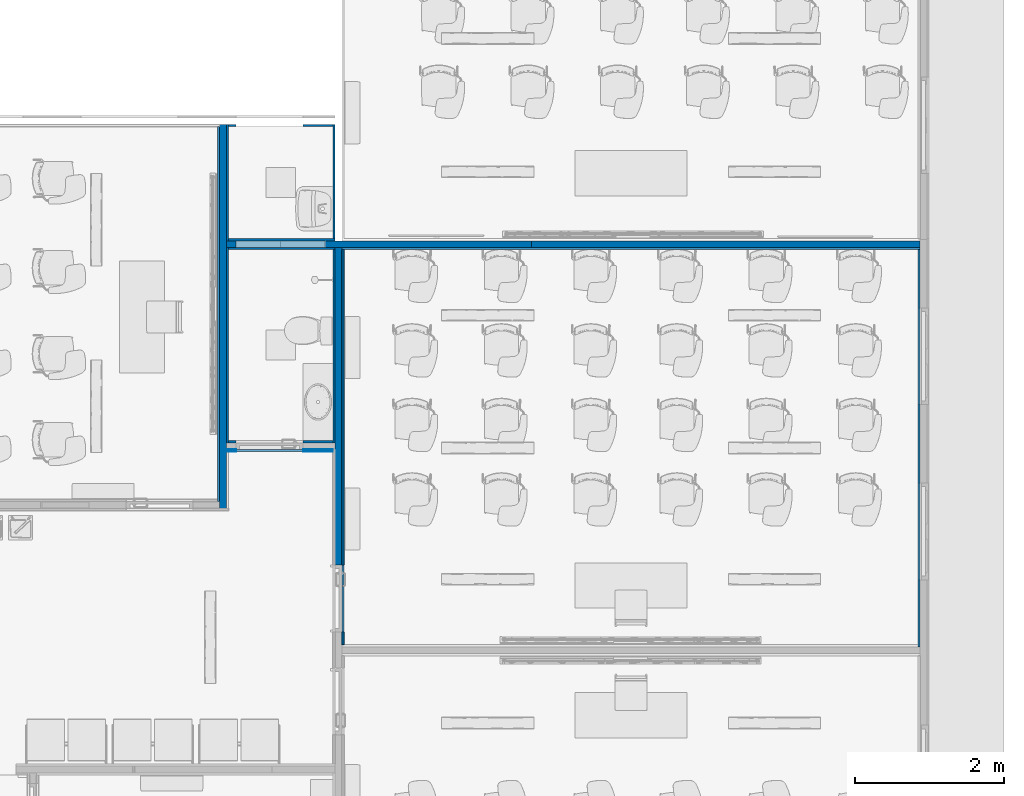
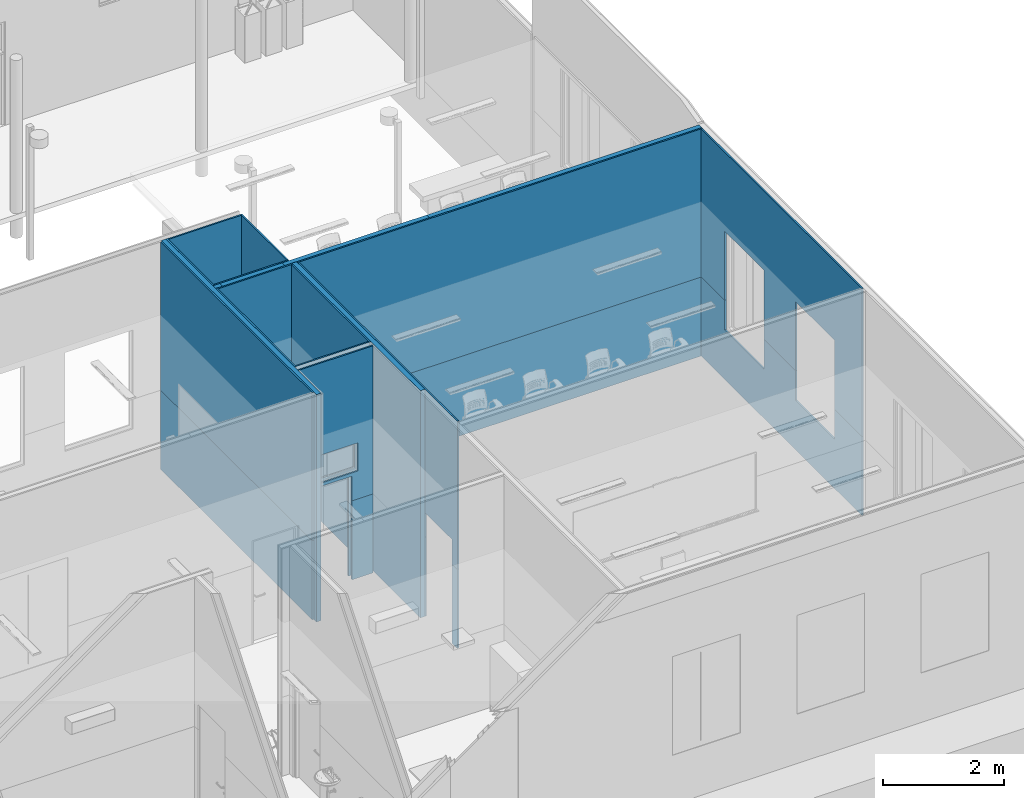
# One storey, part 24 of 155: 24 walls, 29 openings.
"""IFC2X3 building model written with IfcOpenShell, lengths in metres."""

from ifc_helpers import new_model, entity, si_unit, converted_unit, derived_unit, direction, frame, frame_2d, origin, place, context, subcontext, project, spatial, rectangle, extrude, material, layer, layer_set, layer_usage, type_object, element, save


model = new_model("IFC2X3")

# Units and contexts
model_context = context("Model", 3, precision=1e-05, world=origin(), true_north=direction((6.12303176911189e-17, 1.0)))
body_context = subcontext(model_context, "Body", "Model", "MODEL_VIEW")
ifc_project = project(units=[si_unit("LENGTHUNIT", "METRE"), si_unit("AREAUNIT", "SQUARE_METRE"), si_unit("VOLUMEUNIT", "CUBIC_METRE"), converted_unit("PLANEANGLEUNIT", "DEGREE", entity("IfcRatioMeasure", 0.0174532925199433), si_unit("PLANEANGLEUNIT", "RADIAN"), dimensions=[0, 0, 0, 0, 0, 0, 0]), si_unit("MASSUNIT", "GRAM", prefix="KILO"), derived_unit("MASSDENSITYUNIT", [(si_unit("MASSUNIT", "GRAM", prefix="KILO"), 1), (si_unit("LENGTHUNIT", "METRE"), -3)]), si_unit("TIMEUNIT", "SECOND"), si_unit("FREQUENCYUNIT", "HERTZ"), si_unit("THERMODYNAMICTEMPERATUREUNIT", "DEGREE_CELSIUS"), derived_unit("THERMALTRANSMITTANCEUNIT", [(si_unit("MASSUNIT", "GRAM", prefix="KILO"), 1), (si_unit("THERMODYNAMICTEMPERATUREUNIT", "KELVIN"), -1), (si_unit("TIMEUNIT", "SECOND"), -3)]), derived_unit("VOLUMETRICFLOWRATEUNIT", [(si_unit("LENGTHUNIT", "METRE"), 3), (si_unit("TIMEUNIT", "SECOND"), -1)]), si_unit("ELECTRICCURRENTUNIT", "AMPERE"), si_unit("ELECTRICVOLTAGEUNIT", "VOLT"), si_unit("POWERUNIT", "WATT"), si_unit("FORCEUNIT", "NEWTON", prefix="KILO"), si_unit("ILLUMINANCEUNIT", "LUX"), si_unit("LUMINOUSFLUXUNIT", "LUMEN"), si_unit("LUMINOUSINTENSITYUNIT", "CANDELA"), derived_unit("USERDEFINED", [(si_unit("MASSUNIT", "GRAM", prefix="KILO"), -1), (si_unit("LENGTHUNIT", "METRE"), -2), (si_unit("TIMEUNIT", "SECOND"), 3), (si_unit("LUMINOUSFLUXUNIT", "LUMEN"), 1)]), derived_unit("LINEARVELOCITYUNIT", [(si_unit("LENGTHUNIT", "METRE"), 1), (si_unit("TIMEUNIT", "SECOND"), -1)]), si_unit("PRESSUREUNIT", "PASCAL"), derived_unit("USERDEFINED", [(si_unit("LENGTHUNIT", "METRE"), -2), (si_unit("MASSUNIT", "GRAM", prefix="KILO"), 1), (si_unit("TIMEUNIT", "SECOND"), -2)])], contexts=[model_context])

# Site, building, storey
site_placement = place(None, frame((26.9889013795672, -17.5624287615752, 0.0)))
site = spatial("IfcSite", under=ifc_project, at=site_placement, Name="Default", CompositionType="ELEMENT")
building_placement = place(site_placement, origin())
building = spatial("IfcBuilding", under=site, at=building_placement, Name="C. C. L. Monsenhor Antônio Sampaio", CompositionType="ELEMENT")
storey_placement = place(building_placement, frame((0.0, 0.0, 1.19999999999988)))
storey = spatial("IfcBuildingStorey", under=building, at=storey_placement, Name="Nível 1.2", CompositionType="ELEMENT", Elevation=1.19999999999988)

# Wall
ifc_material_1 = material(Name="ALVENARIA")
ifc_layer_1 = layer(ifc_material_1, 0.09)
ifc_layer_set_1 = layer_set([ifc_layer_1], Name="Parede básica:ENucleo parede 15cm")
ifc_layer_usage_1 = layer_usage(ifc_layer_set_1, "AXIS2", "POSITIVE", -0.045)
wall_type_1 = type_object("IfcWallType", Name="Parede básica:ENucleo parede 15cm", PredefinedType="STANDARD", material=ifc_layer_set_1)
wall_1_placement = place(storey_placement, frame((2.25443400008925, -26.7730663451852, 0.0), z_axis=(0.0, 0.0, 1.0), x_axis=(0.0, -1.0, 0.0)))
element("IfcWallStandardCase", 1, at=wall_1_placement, inside=storey, type_object=wall_type_1, material=ifc_layer_usage_1, Name="Parede básica:ENucleo parede 15cm", ObjectType="Parede básica:ENucleo parede 15cm", context=body_context, shape_type="SweptSolid", body=[
    extrude(rectangle(XDim=5.149999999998, YDim=0.0900000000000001, at=frame_2d((2.574999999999, -9.36750677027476e-17), x_axis=(-1.0, 0.0))), origin(), (0.0, 0.0, 1.0), 4.60000000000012),
])

# Wall, openings
ifc_layer_usage_2 = layer_usage(ifc_layer_set_1, "AXIS2", "POSITIVE", -0.045)
wall_2_placement = place(storey_placement, frame((3.62444770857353, -28.378066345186, 0.0)))
wall_2 = element("IfcWallStandardCase", 2, at=wall_2_placement, inside=storey, type_object=wall_type_1, material=ifc_layer_usage_2, Name="Parede básica:ENucleo parede 15cm", ObjectType="Parede básica:ENucleo parede 15cm", context=body_context, shape_type="SweptSolid", body=[
    extrude(rectangle(XDim=2.77, YDim=0.0899999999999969, at=frame_2d((1.385, 0.0), x_axis=(-1.0, 0.0))), origin(), (0.0, 0.0, 1.0), 4.60000000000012),
])
opening_1_placement = place(wall_2_placement, origin())
element("IfcOpeningElement", 3, at=opening_1_placement, cuts=wall_2, Name="Parede básica:ENucleo parede 15cm", ObjectType="Opening", context=body_context, shape_type="SweptSolid", body=[
    extrude(rectangle(XDim=0.400000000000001, YDim=0.6, at=frame_2d((-2.77555756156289e-16, 0.0), x_axis=(0.0, 1.0))), frame((-0.295000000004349, -1.47900000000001, 2.0), z_axis=(0.0, 1.0, 0.0), x_axis=(-1.0, 0.0, 0.0)), (0.0, 0.0, 1.0), 3.048),
])
opening_2_placement = place(wall_2_placement, origin())
element("IfcOpeningElement", 4, at=opening_2_placement, cuts=wall_2, Name="Parede básica:ENucleo parede 15cm", ObjectType="Opening", context=body_context, shape_type="SweptSolid", body=[
    extrude(rectangle(XDim=0.400000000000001, YDim=0.6, at=frame_2d((2.77555756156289e-16, 0.0), x_axis=(0.0, 1.0))), frame((-0.895000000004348, -1.479, 2.0), z_axis=(0.0, 1.0, 0.0), x_axis=(-1.0, 0.0, 0.0)), (0.0, 0.0, 1.0), 3.048),
])

ifc_layer_usage_3 = layer_usage(ifc_layer_set_1, "AXIS2", "POSITIVE", -0.045)
wall_3_placement = place(storey_placement, frame((6.39444770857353, -28.378066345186, 0.0)))
wall_3 = element("IfcWallStandardCase", 5, at=wall_3_placement, inside=storey, type_object=wall_type_1, material=ifc_layer_usage_3, Name="Parede básica:ENucleo parede 15cm", ObjectType="Parede básica:ENucleo parede 15cm", context=body_context, shape_type="SweptSolid", body=[
    extrude(rectangle(XDim=5.215, YDim=0.0899999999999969, at=frame_2d((2.6075, -9.0205620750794e-17), x_axis=(-1.0, 0.0))), origin(), (0.0, 0.0, 1.0), 4.60000000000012),
])
opening_3_placement = place(wall_3_placement, origin())
element("IfcOpeningElement", 6, at=opening_3_placement, cuts=wall_3, Name="Parede básica:ENucleo parede 15cm", ObjectType="Opening", context=body_context, shape_type="SweptSolid", body=[
    extrude(rectangle(XDim=0.400000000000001, YDim=0.6, at=frame_2d((2.77555756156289e-16, 0.0), x_axis=(0.0, 1.0))), frame((-3.66500000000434, -1.479, 2.0), z_axis=(0.0, 1.0, 0.0), x_axis=(-1.0, 0.0, 0.0)), (0.0, 0.0, 1.0), 3.048),
])
opening_4_placement = place(wall_3_placement, origin())
element("IfcOpeningElement", 7, at=opening_4_placement, cuts=wall_3, Name="Parede básica:ENucleo parede 15cm", ObjectType="Opening", context=body_context, shape_type="SweptSolid", body=[
    extrude(rectangle(XDim=0.400000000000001, YDim=0.6, at=frame_2d((-2.77555756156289e-16, 0.0), x_axis=(0.0, 1.0))), frame((-3.06500000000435, -1.479, 2.0), z_axis=(0.0, 1.0, 0.0), x_axis=(-1.0, 0.0, 0.0)), (0.0, 0.0, 1.0), 3.048),
])

ifc_layer_usage_4 = layer_usage(ifc_layer_set_1, "AXIS2", "POSITIVE", -0.045)
wall_4_placement = place(storey_placement, frame((2.29943400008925, -28.378066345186, 0.0)))
wall_4 = element("IfcWallStandardCase", 8, at=wall_4_placement, inside=storey, type_object=wall_type_1, material=ifc_layer_usage_4, Name="Parede básica:ENucleo parede 15cm", ObjectType="Parede básica:ENucleo parede 15cm", context=body_context, shape_type="SweptSolid", body=[
    extrude(rectangle(XDim=0.130000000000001, YDim=0.0899999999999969, at=frame_2d((0.0650000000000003, 2.1163626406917e-16), x_axis=(-1.0, 0.0))), origin(), (0.0, 0.0, 1.0), 4.60000000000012),
])
opening_5_placement = place(wall_4_placement, origin())
element("IfcOpeningElement", 9, at=opening_5_placement, cuts=wall_4, Name="Parede básica:ENucleo parede 15cm", ObjectType="Opening", context=body_context, shape_type="SweptSolid", body=[
    extrude(rectangle(XDim=0.400000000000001, YDim=0.6, at=frame_2d((2.77555756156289e-16, 0.0), x_axis=(0.0, 1.0))), frame((0.430013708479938, -1.479, 2.0), z_axis=(0.0, 1.0, 0.0), x_axis=(-1.0, 0.0, 0.0)), (0.0, 0.0, 1.0), 3.048),
])
opening_6_placement = place(wall_4_placement, origin())
element("IfcOpeningElement", 10, at=opening_6_placement, cuts=wall_4, Name="Parede básica:ENucleo parede 15cm", ObjectType="Opening", context=body_context, shape_type="SweptSolid", body=[
    extrude(rectangle(XDim=0.400000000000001, YDim=0.6, at=frame_2d((-2.77555756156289e-16, 0.0), x_axis=(0.0, 1.0))), frame((1.03001370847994, -1.479, 2.0), z_axis=(0.0, 1.0, 0.0), x_axis=(-1.0, 0.0, 0.0)), (0.0, 0.0, 1.0), 3.048),
])

ifc_layer_usage_5 = layer_usage(ifc_layer_set_1, "AXIS2", "POSITIVE", -0.045)
wall_5_placement = place(storey_placement, frame((2.42943400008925, -28.378066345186, 0.0)))
wall_5 = element("IfcWallStandardCase", 11, at=wall_5_placement, inside=storey, type_object=wall_type_1, material=ifc_layer_usage_5, Name="Parede básica:ENucleo parede 15cm", ObjectType="Parede básica:ENucleo parede 15cm", context=body_context, shape_type="SweptSolid", body=[
    extrude(rectangle(XDim=1.19501370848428, YDim=0.0899999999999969, at=frame_2d((0.597506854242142, -2.08166817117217e-16), x_axis=(-1.0, 0.0))), origin(), (0.0, 0.0, 1.0), 4.60000000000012),
])
opening_7_placement = place(wall_5_placement, frame((-2.42943400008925, 28.378066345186, 0.0)))
element("IfcOpeningElement", 12, at=opening_7_placement, cuts=wall_5, Name="Parede básica:ENucleo parede 15cm", ObjectType="Opening", context=body_context, shape_type="SweptSolid", body=[
    extrude(rectangle(XDim=0.400000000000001, YDim=0.6, at=frame_2d((2.77555756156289e-16, 0.0), x_axis=(0.0, 1.0))), frame((2.72944770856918, -29.857066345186, 2.0), z_axis=(0.0, 1.0, 0.0), x_axis=(-1.0, 0.0, 0.0)), (0.0, 0.0, 1.0), 3.048),
])
opening_8_placement = place(wall_5_placement, frame((-2.42943400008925, 28.378066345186, 0.0)))
element("IfcOpeningElement", 13, at=opening_8_placement, cuts=wall_5, Name="Parede básica:ENucleo parede 15cm", ObjectType="Opening", context=body_context, shape_type="SweptSolid", body=[
    extrude(rectangle(XDim=0.400000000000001, YDim=0.6, at=frame_2d((-2.77555756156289e-16, 0.0), x_axis=(0.0, 1.0))), frame((3.32944770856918, -29.857066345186, 2.0), z_axis=(0.0, 1.0, 0.0), x_axis=(-1.0, 0.0, 0.0)), (0.0, 0.0, 1.0), 3.048),
])

# Wall, opening
ifc_layer_usage_6 = layer_usage(ifc_layer_set_1, "AXIS2", "POSITIVE", -0.045)
wall_6_placement = place(storey_placement, frame((3.80444770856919, -28.423066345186, 0.0), z_axis=(0.0, 0.0, 1.0), x_axis=(0.0, -1.0, 0.0)))
wall_6 = element("IfcWallStandardCase", 14, at=wall_6_placement, inside=storey, type_object=wall_type_1, material=ifc_layer_usage_6, Name="Parede básica:ENucleo parede 15cm", ObjectType="Parede básica:ENucleo parede 15cm", context=body_context, shape_type="SweptSolid", body=[
    extrude(rectangle(XDim=4.26000000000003, YDim=0.0900000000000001, at=frame_2d((2.13000000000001, -3.12250225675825e-17), x_axis=(-1.0, 0.0))), origin(), (0.0, 0.0, 1.0), 4.60000000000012),
])
opening_9_placement = place(wall_6_placement, origin())
element("IfcOpeningElement", 15, at=opening_9_placement, cuts=wall_6, Name="Parede básica:ENucleo parede 15cm", ObjectType="Opening", context=body_context, shape_type="SweptSolid", body=[
    extrude(rectangle(XDim=2.09999999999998, YDim=0.899999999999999, at=frame_2d((2.16493489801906e-15, 0.0), x_axis=(0.0, 1.0))), frame((4.71000000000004, -1.479, 1.04999999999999), z_axis=(0.0, 1.0, 0.0), x_axis=(-1.0, 0.0, 0.0)), (0.0, 0.0, 1.0), 3.048),
])

ifc_material_2 = material(Name=".CERÂMICA 10x10 BRANCA")
ifc_layer_2 = layer(ifc_material_2, 0.0035)
ifc_material_3 = material(Name="Argamassa Colante")
ifc_layer_3 = layer(ifc_material_3, 0.02)
ifc_material_4 = material(Name="4")
ifc_layer_4 = layer(ifc_material_4, 0.0015)
ifc_material_5 = material(Name="3")
ifc_layer_5 = layer(ifc_material_5, 0.005)
ifc_layer_set_2 = layer_set([ifc_layer_2, ifc_layer_3, ifc_layer_4, ifc_layer_5], Name="Parede básica:ECeramica branca 10x10cm")
ifc_layer_usage_7 = layer_usage(ifc_layer_set_2, "AXIS2", "NEGATIVE", 0.015)
wall_type_2 = type_object("IfcWallType", Name="Parede básica:ECeramica branca 10x10cm", PredefinedType="STANDARD", material=ifc_layer_set_2)
wall_7_placement = place(storey_placement, frame((3.72944770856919, -31.1480663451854, 0.0), z_axis=(0.0, 0.0, 1.0), x_axis=(-1.0, 0.0, 0.0)))
wall_7 = element("IfcWallStandardCase", 16, at=wall_7_placement, inside=storey, type_object=wall_type_2, material=ifc_layer_usage_7, Name="Parede básica:ECeramica branca 10x10cm", ObjectType="Parede básica:ECeramica branca 10x10cm", context=body_context, shape_type="SweptSolid", body=[
    extrude(rectangle(XDim=1.43001370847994, YDim=0.0300000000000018, at=frame_2d((0.715006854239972, 0.0), x_axis=(-1.0, 0.0))), origin(), (0.0, 0.0, 1.0), 1.6),
])
opening_10_placement = place(wall_7_placement, origin())
element("IfcOpeningElement", 17, at=opening_10_placement, cuts=wall_7, Name="Parede básica:ECeramica branca 10x10cm", ObjectType="Opening", context=body_context, shape_type="SweptSolid", body=[
    extrude(rectangle(XDim=2.09999999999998, YDim=0.900000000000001, at=frame_2d((2.77555756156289e-16, 0.0), x_axis=(0.0, 1.0))), frame((0.850013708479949, -1.62899999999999, 1.04999999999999), z_axis=(0.0, 1.0, 0.0), x_axis=(-1.0, 0.0, 0.0)), (0.0, 0.0, 1.0), 3.048),
])

# Walls
ifc_layer_usage_8 = layer_usage(ifc_layer_set_2, "AXIS2", "POSITIVE", -0.015)
wall_8_placement = place(storey_placement, frame((2.19443400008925, -26.8030663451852, 0.0), z_axis=(0.0, 0.0, 1.0), x_axis=(0.0, -1.0, 0.0)))
element("IfcWallStandardCase", 18, at=wall_8_placement, inside=storey, type_object=wall_type_2, material=ifc_layer_usage_8, Name="Parede básica:ECeramica branca 10x10cm", ObjectType="Parede básica:ECeramica branca 10x10cm", context=body_context, shape_type="SweptSolid", body=[
    extrude(rectangle(XDim=5.029999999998, YDim=0.0300000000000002, at=frame_2d((2.514999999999, 0.0), x_axis=(-1.0, 0.0))), origin(), (0.0, 0.0, 1.0), 1.6),
])
ifc_layer_usage_9 = layer_usage(ifc_layer_set_2, "AXIS2", "POSITIVE", -0.015)
wall_9_placement = place(storey_placement, frame((3.84944770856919, -28.438066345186, 0.0)))
element("IfcWallStandardCase", 19, at=wall_9_placement, inside=storey, type_object=wall_type_2, material=ifc_layer_usage_9, Name="Parede básica:ECeramica branca 10x10cm", ObjectType="Parede básica:ECeramica branca 10x10cm", context=body_context, shape_type="SweptSolid", body=[
    extrude(rectangle(XDim=7.76000000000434, YDim=0.0300000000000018, at=frame_2d((3.88000000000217, 0.0), x_axis=(-1.0, 0.0))), origin(), (0.0, 0.0, 1.0), 1.6),
])

# Wall, openings
ifc_layer_usage_10 = layer_usage(ifc_layer_set_2, "AXIS2", "POSITIVE", -0.015)
wall_10_placement = place(storey_placement, frame((11.5944477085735, -28.453066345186, 0.0), z_axis=(0.0, 0.0, 1.0), x_axis=(0.0, -1.0, 0.0)))
wall_10 = element("IfcWallStandardCase", 20, at=wall_10_placement, inside=storey, type_object=wall_type_2, material=ifc_layer_usage_10, Name="Parede básica:ECeramica branca 10x10cm", ObjectType="Parede básica:ECeramica branca 10x10cm", context=body_context, shape_type="SweptSolid", body=[
    extrude(rectangle(XDim=5.33000000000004, YDim=0.0300000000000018, at=frame_2d((2.66500000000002, 0.0), x_axis=(-1.0, 0.0))), origin(), (0.0, 0.0, 1.0), 1.6),
])
opening_11_placement = place(wall_10_placement, origin())
element("IfcOpeningElement", 21, at=opening_11_placement, cuts=wall_10, Name="Parede básica:ECeramica branca 10x10cm", ObjectType="Opening", context=body_context, shape_type="SweptSolid", body=[
    extrude(rectangle(XDim=2.0, YDim=1.30000000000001, at=frame_2d((1.66533453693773e-16, 0.0), x_axis=(1.0, 0.0))), frame((3.78000000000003, -1.509, 2.0), z_axis=(0.0, 1.0, 0.0), x_axis=(0.0, 0.0, 1.0)), (0.0, 0.0, 1.0), 3.048),
])
opening_12_placement = place(wall_10_placement, origin())
element("IfcOpeningElement", 22, at=opening_12_placement, cuts=wall_10, Name="Parede básica:ECeramica branca 10x10cm", ObjectType="Opening", context=body_context, shape_type="SweptSolid", body=[
    extrude(rectangle(XDim=2.0, YDim=1.30000000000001, at=frame_2d((1.66533453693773e-16, 0.0), x_axis=(1.0, 0.0))), frame((1.43000000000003, -1.509, 2.0), z_axis=(0.0, 1.0, 0.0), x_axis=(0.0, 0.0, 1.0)), (0.0, 0.0, 1.0), 3.048),
])
opening_13_placement = place(wall_10_placement, origin())
element("IfcOpeningElement", 23, at=opening_13_placement, cuts=wall_10, Name="Parede básica:ECeramica branca 10x10cm", ObjectType="Opening", context=body_context, shape_type="SweptSolid", body=[
    extrude(rectangle(XDim=2.0, YDim=1.30000000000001, at=frame_2d((1.66533453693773e-16, 4.32986979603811e-15), x_axis=(1.0, 0.0))), frame((9.33000000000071, -1.509, 2.0), z_axis=(0.0, 1.0, 0.0), x_axis=(0.0, 0.0, 1.0)), (0.0, 0.0, 1.0), 3.048),
])
opening_14_placement = place(wall_10_placement, origin())
element("IfcOpeningElement", 24, at=opening_14_placement, cuts=wall_10, Name="Parede básica:ECeramica branca 10x10cm", ObjectType="Opening", context=body_context, shape_type="SweptSolid", body=[
    extrude(rectangle(XDim=2.0, YDim=1.30000000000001, at=frame_2d((1.66533453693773e-16, 4.32986979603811e-15), x_axis=(1.0, 0.0))), frame((7.03000000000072, -1.509, 2.0), z_axis=(0.0, 1.0, 0.0), x_axis=(0.0, 0.0, 1.0)), (0.0, 0.0, 1.0), 3.048),
])

ifc_layer_usage_11 = layer_usage(ifc_layer_set_2, "AXIS2", "POSITIVE", -0.015)
wall_11_placement = place(storey_placement, frame((3.86444770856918, -33.753066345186, 0.0), z_axis=(0.0, 0.0, 1.0), x_axis=(0.0, 1.0, 0.0)))
wall_11 = element("IfcWallStandardCase", 25, at=wall_11_placement, inside=storey, type_object=wall_type_2, material=ifc_layer_usage_11, Name="Parede básica:ECeramica branca 10x10cm", ObjectType="Parede básica:ECeramica branca 10x10cm", context=body_context, shape_type="SweptSolid", body=[
    extrude(rectangle(XDim=5.30000000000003, YDim=0.0299999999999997, at=frame_2d((2.65000000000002, 0.0), x_axis=(-1.0, 0.0))), origin(), (0.0, 0.0, 1.0), 1.6),
])
opening_15_placement = place(wall_11_placement, origin())
element("IfcOpeningElement", 26, at=opening_15_placement, cuts=wall_11, Name="Parede básica:ECeramica branca 10x10cm", ObjectType="Opening", context=body_context, shape_type="SweptSolid", body=[
    extrude(rectangle(XDim=2.09999999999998, YDim=0.899999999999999, at=frame_2d((-3.33066907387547e-16, -2.16493489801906e-15), x_axis=(1.0, 0.0))), frame((0.620000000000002, -1.509, 1.04999999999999), z_axis=(0.0, 1.0, 0.0), x_axis=(0.0, 0.0, 1.0)), (0.0, 0.0, 1.0), 3.048),
])
opening_16_placement = place(wall_11_placement, origin())
element("IfcOpeningElement", 27, at=opening_16_placement, cuts=wall_11, Name="Parede básica:ECeramica branca 10x10cm", ObjectType="Opening", context=body_context, shape_type="SweptSolid", body=[
    extrude(rectangle(XDim=2.09999999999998, YDim=0.899999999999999, at=frame_2d((2.16493489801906e-15, 0.0), x_axis=(0.0, 1.0))), frame((-0.759999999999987, -1.509, 1.04999999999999), z_axis=(0.0, 1.0, 0.0), x_axis=(-1.0, 0.0, 0.0)), (0.0, 0.0, 1.0), 3.048),
])

# Walls
ifc_layer_usage_12 = layer_usage(ifc_layer_set_2, "AXIS2", "NEGATIVE", 0.015)
wall_12_placement = place(storey_placement, frame((2.31443400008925, -28.423066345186, 0.0), z_axis=(0.0, 0.0, 1.0), x_axis=(0.0, -1.0, 0.0)))
element("IfcWallStandardCase", 28, at=wall_12_placement, inside=storey, type_object=wall_type_2, material=ifc_layer_usage_12, Name="Parede básica:ECeramica branca 10x10cm", ObjectType="Parede básica:ECeramica branca 10x10cm", context=body_context, shape_type="SweptSolid", body=[
    extrude(rectangle(XDim=2.61999999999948, YDim=0.0300000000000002, at=frame_2d((1.30999999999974, 0.0), x_axis=(-1.0, 0.0))), origin(), (0.0, 0.0, 1.0), 4.60000000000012),
])
ifc_layer_usage_13 = layer_usage(ifc_layer_set_2, "AXIS2", "POSITIVE", -0.015)
wall_13_placement = place(storey_placement, frame((2.32943400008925, -28.4380663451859, 0.0)))
element("IfcWallStandardCase", 29, at=wall_13_placement, inside=storey, type_object=wall_type_2, material=ifc_layer_usage_13, Name="Parede básica:ECeramica branca 10x10cm", ObjectType="Parede básica:ECeramica branca 10x10cm", context=body_context, shape_type="SweptSolid", body=[
    extrude(rectangle(XDim=1.43001370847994, YDim=0.0300000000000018, at=frame_2d((0.715006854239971, 0.0), x_axis=(-1.0, 0.0))), origin(), (0.0, 0.0, 1.0), 4.60000000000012),
])
ifc_layer_usage_14 = layer_usage(ifc_layer_set_2, "AXIS2", "POSITIVE", -0.015)
wall_14_placement = place(storey_placement, frame((3.74444770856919, -28.453066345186, 0.0), z_axis=(0.0, 0.0, 1.0), x_axis=(0.0, -1.0, 0.0)))
element("IfcWallStandardCase", 30, at=wall_14_placement, inside=storey, type_object=wall_type_2, material=ifc_layer_usage_14, Name="Parede básica:ECeramica branca 10x10cm", ObjectType="Parede básica:ECeramica branca 10x10cm", context=body_context, shape_type="SweptSolid", body=[
    extrude(rectangle(XDim=2.58999999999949, YDim=0.0299999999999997, at=frame_2d((1.29499999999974, 0.0), x_axis=(-1.0, 0.0))), origin(), (0.0, 0.0, 1.0), 4.60000000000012),
])

# Wall, openings
ifc_layer_usage_15 = layer_usage(ifc_layer_set_2, "AXIS2", "POSITIVE", -0.015)
wall_15_placement = place(storey_placement, frame((3.72944770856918, -31.0280663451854, 0.0), z_axis=(0.0, 0.0, 1.0), x_axis=(-1.0, 0.0, 0.0)))
wall_15 = element("IfcWallStandardCase", 31, at=wall_15_placement, inside=storey, type_object=wall_type_2, material=ifc_layer_usage_15, Name="Parede básica:ECeramica branca 10x10cm", ObjectType="Parede básica:ECeramica branca 10x10cm", context=body_context, shape_type="SweptSolid", body=[
    extrude(rectangle(XDim=1.40001370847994, YDim=0.0300000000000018, at=frame_2d((0.700006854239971, 0.0), x_axis=(-1.0, 0.0))), origin(), (0.0, 0.0, 1.0), 4.60000000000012),
])
opening_17_placement = place(wall_15_placement, origin())
element("IfcOpeningElement", 32, at=opening_17_placement, cuts=wall_15, Name="Parede básica:ECeramica branca 10x10cm", ObjectType="Opening", context=body_context, shape_type="SweptSolid", body=[
    extrude(rectangle(XDim=2.09999999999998, YDim=0.900000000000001, at=frame_2d((2.77555756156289e-16, 0.0), x_axis=(0.0, 1.0))), frame((0.850013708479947, -1.509, 1.04999999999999), z_axis=(0.0, 1.0, 0.0), x_axis=(-1.0, 0.0, 0.0)), (0.0, 0.0, 1.0), 3.048),
])
opening_18_placement = place(wall_15_placement, origin())
element("IfcOpeningElement", 33, at=opening_18_placement, cuts=wall_15, Name="Parede básica:ECeramica branca 10x10cm", ObjectType="Opening", context=body_context, shape_type="SweptSolid", body=[
    extrude(rectangle(XDim=0.570000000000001, YDim=1.07, at=frame_2d((0.0, 5.27355936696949e-16), x_axis=(0.0, 1.0))), frame((0.820006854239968, -1.41900000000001, 2.45), z_axis=(0.0, 1.0, 0.0), x_axis=(-1.0, 0.0, 0.0)), (0.0, 0.0, 1.0), 3.048),
])

# Walls
ifc_layer_usage_16 = layer_usage(ifc_layer_set_2, "AXIS2", "NEGATIVE", 0.015)
wall_16_placement = place(storey_placement, frame((2.31444770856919, -26.7730663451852, 0.0), z_axis=(0.0, 0.0, 1.0), x_axis=(0.0, -1.0, 0.0)))
element("IfcWallStandardCase", 34, at=wall_16_placement, inside=storey, type_object=wall_type_2, material=ifc_layer_usage_16, Name="Parede básica:ECeramica branca 10x10cm", ObjectType="Parede básica:ECeramica branca 10x10cm", context=body_context, shape_type="SweptSolid", body=[
    extrude(rectangle(XDim=1.56000000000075, YDim=0.0300000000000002, at=frame_2d((0.780000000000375, 6.15826833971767e-17), x_axis=(-1.0, 0.0))), origin(), (0.0, 0.0, 1.0), 4.60000000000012),
])
ifc_layer_usage_17 = layer_usage(ifc_layer_set_2, "AXIS2", "NEGATIVE", 0.015)
wall_17_placement = place(storey_placement, frame((2.32944770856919, -28.318066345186, 0.0)))
element("IfcWallStandardCase", 35, at=wall_17_placement, inside=storey, type_object=wall_type_2, material=ifc_layer_usage_17, Name="Parede básica:ECeramica branca 10x10cm", ObjectType="Parede básica:ECeramica branca 10x10cm", context=body_context, shape_type="SweptSolid", body=[
    extrude(rectangle(XDim=1.42992946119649, YDim=0.0300000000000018, at=frame_2d((0.714964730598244, 1.70002900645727e-16), x_axis=(-1.0, 0.0))), origin(), (0.0, 0.0, 1.0), 4.60000000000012),
])
ifc_layer_usage_18 = layer_usage(ifc_layer_set_2, "AXIS2", "NEGATIVE", 0.015)
wall_18_placement = place(storey_placement, frame((3.74437716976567, -28.303066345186, -0.400000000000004), z_axis=(0.0, 0.0, 1.0), x_axis=(0.0, 1.0, 0.0)))
element("IfcWallStandardCase", 36, at=wall_18_placement, inside=storey, type_object=wall_type_2, material=ifc_layer_usage_18, Name="Parede básica:ECeramica branca 10x10cm", ObjectType="Parede básica:ECeramica branca 10x10cm", context=body_context, shape_type="SweptSolid", body=[
    extrude(rectangle(XDim=1.53000000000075, YDim=0.0299999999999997, at=frame_2d((0.765000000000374, -1.0321604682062e-16), x_axis=(-1.0, 0.0))), origin(), (0.0, 0.0, 1.0), 5.00000000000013),
])

# Wall, openings
ifc_layer_usage_19 = layer_usage(ifc_layer_set_2, "AXIS2", "POSITIVE", -0.015)
wall_19_placement = place(storey_placement, frame((2.32944770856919, -26.7880663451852, 0.0)))
wall_19 = element("IfcWallStandardCase", 37, at=wall_19_placement, inside=storey, type_object=wall_type_2, material=ifc_layer_usage_19, Name="Parede básica:ECeramica branca 10x10cm", ObjectType="Parede básica:ECeramica branca 10x10cm", context=body_context, shape_type="SweptSolid", body=[
    extrude(rectangle(XDim=1.39992946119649, YDim=0.0300000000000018, at=frame_2d((0.699964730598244, 0.0), x_axis=(-1.0, 0.0))), origin(), (0.0, 0.0, 1.0), 4.60000000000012),
])
opening_19_placement = place(wall_19_placement, origin())
element("IfcOpeningElement", 38, at=opening_19_placement, cuts=wall_19, Name="Parede básica:ECeramica branca 10x10cm", ObjectType="Opening", context=body_context, shape_type="SweptSolid", body=[
    extrude(rectangle(XDim=0.400000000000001, YDim=0.6, at=frame_2d((-2.77555756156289e-16, 2.77555756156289e-16), x_axis=(0.0, 1.0))), frame((1.04992946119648, -1.41900000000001, 2.4), z_axis=(0.0, 1.0, 0.0), x_axis=(-1.0, 0.0, 0.0)), (0.0, 0.0, 1.0), 3.048),
])
opening_20_placement = place(wall_19_placement, origin())
element("IfcOpeningElement", 39, at=opening_20_placement, cuts=wall_19, Name="Parede básica:ECeramica branca 10x10cm", ObjectType="Opening", context=body_context, shape_type="SweptSolid", body=[
    extrude(rectangle(XDim=0.400000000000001, YDim=0.6, at=frame_2d((-2.77555756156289e-16, 1.38777878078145e-16), x_axis=(1.0, 0.0))), frame((0.359957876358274, -1.509, 2.4), z_axis=(0.0, 1.0, 0.0), x_axis=(0.0, 0.0, 1.0)), (0.0, 0.0, 1.0), 3.048),
])
opening_21_placement = place(wall_19_placement, origin())
element("IfcOpeningElement", 40, at=opening_21_placement, cuts=wall_19, Name="Parede básica:ECeramica branca 10x10cm", ObjectType="Opening", context=body_context, shape_type="SweptSolid", body=[
    extrude(rectangle(XDim=2.09999999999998, YDim=0.9, at=frame_2d((-1.11022302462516e-16, 0.0), x_axis=(1.0, 0.0))), frame((0.550000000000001, -1.509, 0.799999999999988), z_axis=(0.0, 1.0, 0.0), x_axis=(0.0, 0.0, 1.0)), (0.0, 0.0, 1.0), 3.048),
])

ifc_material_6 = material(Name="Acabamento Branco")
ifc_layer_6 = layer(ifc_material_6, 0.0035)
ifc_material_7 = material(Name="Massa corrida")
ifc_layer_7 = layer(ifc_material_7, 0.02)
ifc_layer_8 = layer(ifc_material_4, 0.0015)
ifc_layer_9 = layer(ifc_material_5, 0.005)
ifc_layer_set_3 = layer_set([ifc_layer_6, ifc_layer_7, ifc_layer_8, ifc_layer_9], Name="Parede básica:EPintura Branca")
ifc_layer_usage_20 = layer_usage(ifc_layer_set_3, "AXIS2", "NEGATIVE", 0.015)
wall_type_3 = type_object("IfcWallType", Name="Parede básica:EPintura Branca", PredefinedType="STANDARD", material=ifc_layer_set_3)
wall_20_placement = place(storey_placement, frame((3.72944770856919, -31.1480663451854, 1.6), z_axis=(0.0, 0.0, 1.0), x_axis=(-1.0, 0.0, 0.0)))
wall_20 = element("IfcWallStandardCase", 41, at=wall_20_placement, inside=storey, type_object=wall_type_3, material=ifc_layer_usage_20, Name="Parede básica:EPintura Branca", ObjectType="Parede básica:EPintura Branca", context=body_context, shape_type="SweptSolid", body=[
    extrude(rectangle(XDim=1.43001370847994, YDim=0.0300000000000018, at=frame_2d((0.715006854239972, 0.0), x_axis=(-1.0, 0.0))), origin(), (0.0, 0.0, 1.0), 3.00000000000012),
])
opening_22_placement = place(wall_20_placement, origin())
element("IfcOpeningElement", 42, at=opening_22_placement, cuts=wall_20, Name="Parede básica:EPintura Branca", ObjectType="Opening", context=body_context, shape_type="SweptSolid", body=[
    extrude(rectangle(XDim=2.09999999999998, YDim=0.900000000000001, at=frame_2d((2.77555756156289e-16, 0.0), x_axis=(0.0, 1.0))), frame((0.850013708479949, -1.62899999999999, -0.550000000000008), z_axis=(0.0, 1.0, 0.0), x_axis=(-1.0, 0.0, 0.0)), (0.0, 0.0, 1.0), 3.048),
])
opening_23_placement = place(wall_20_placement, origin())
element("IfcOpeningElement", 43, at=opening_23_placement, cuts=wall_20, Name="Parede básica:EPintura Branca", ObjectType="Opening", context=body_context, shape_type="SweptSolid", body=[
    extrude(rectangle(XDim=0.570000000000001, YDim=1.07, at=frame_2d((0.0, 5.27355936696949e-16), x_axis=(0.0, 1.0))), frame((0.820006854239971, -1.539, 0.850000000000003), z_axis=(0.0, 1.0, 0.0), x_axis=(-1.0, 0.0, 0.0)), (0.0, 0.0, 1.0), 3.048),
])

# Walls
ifc_layer_usage_21 = layer_usage(ifc_layer_set_3, "AXIS2", "POSITIVE", -0.015)
wall_21_placement = place(storey_placement, frame((2.19443400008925, -26.8030663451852, 1.6), z_axis=(0.0, 0.0, 1.0), x_axis=(0.0, -1.0, 0.0)))
element("IfcWallStandardCase", 44, at=wall_21_placement, inside=storey, type_object=wall_type_3, material=ifc_layer_usage_21, Name="Parede básica:EPintura Branca", ObjectType="Parede básica:EPintura Branca", context=body_context, shape_type="SweptSolid", body=[
    extrude(rectangle(XDim=5.029999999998, YDim=0.0300000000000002, at=frame_2d((2.514999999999, 0.0), x_axis=(-1.0, 0.0))), origin(), (0.0, 0.0, 1.0), 3.00000000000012),
])
ifc_layer_usage_22 = layer_usage(ifc_layer_set_3, "AXIS2", "POSITIVE", -0.015)
wall_22_placement = place(storey_placement, frame((3.84944770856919, -28.438066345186, 1.6)))
element("IfcWallStandardCase", 45, at=wall_22_placement, inside=storey, type_object=wall_type_3, material=ifc_layer_usage_22, Name="Parede básica:EPintura Branca", ObjectType="Parede básica:EPintura Branca", context=body_context, shape_type="SweptSolid", body=[
    extrude(rectangle(XDim=7.76000000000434, YDim=0.0300000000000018, at=frame_2d((3.88000000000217, 0.0), x_axis=(-1.0, 0.0))), origin(), (0.0, 0.0, 1.0), 3.00000000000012),
])

# Wall, openings
ifc_layer_usage_23 = layer_usage(ifc_layer_set_3, "AXIS2", "POSITIVE", -0.015)
wall_23_placement = place(storey_placement, frame((11.5944477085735, -28.453066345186, 1.6), z_axis=(0.0, 0.0, 1.0), x_axis=(0.0, -1.0, 0.0)))
wall_23 = element("IfcWallStandardCase", 46, at=wall_23_placement, inside=storey, type_object=wall_type_3, material=ifc_layer_usage_23, Name="Parede básica:EPintura Branca", ObjectType="Parede básica:EPintura Branca", context=body_context, shape_type="SweptSolid", body=[
    extrude(rectangle(XDim=5.33000000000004, YDim=0.0300000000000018, at=frame_2d((2.66500000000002, 0.0), x_axis=(-1.0, 0.0))), origin(), (0.0, 0.0, 1.0), 3.00000000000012),
])
opening_24_placement = place(wall_23_placement, origin())
element("IfcOpeningElement", 47, at=opening_24_placement, cuts=wall_23, Name="Parede básica:EPintura Branca", ObjectType="Opening", context=body_context, shape_type="SweptSolid", body=[
    extrude(rectangle(XDim=2.0, YDim=1.30000000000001, at=frame_2d((1.66533453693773e-16, 0.0), x_axis=(1.0, 0.0))), frame((3.78000000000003, -1.509, 0.400000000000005), z_axis=(0.0, 1.0, 0.0), x_axis=(0.0, 0.0, 1.0)), (0.0, 0.0, 1.0), 3.048),
])
opening_25_placement = place(wall_23_placement, origin())
element("IfcOpeningElement", 48, at=opening_25_placement, cuts=wall_23, Name="Parede básica:EPintura Branca", ObjectType="Opening", context=body_context, shape_type="SweptSolid", body=[
    extrude(rectangle(XDim=2.0, YDim=1.30000000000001, at=frame_2d((1.66533453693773e-16, 0.0), x_axis=(1.0, 0.0))), frame((1.43000000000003, -1.509, 0.400000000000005), z_axis=(0.0, 1.0, 0.0), x_axis=(0.0, 0.0, 1.0)), (0.0, 0.0, 1.0), 3.048),
])
opening_26_placement = place(wall_23_placement, origin())
element("IfcOpeningElement", 49, at=opening_26_placement, cuts=wall_23, Name="Parede básica:EPintura Branca", ObjectType="Opening", context=body_context, shape_type="SweptSolid", body=[
    extrude(rectangle(XDim=2.0, YDim=1.30000000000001, at=frame_2d((1.66533453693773e-16, 4.32986979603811e-15), x_axis=(1.0, 0.0))), frame((9.33000000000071, -1.509, 0.400000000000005), z_axis=(0.0, 1.0, 0.0), x_axis=(0.0, 0.0, 1.0)), (0.0, 0.0, 1.0), 3.048),
])
opening_27_placement = place(wall_23_placement, origin())
element("IfcOpeningElement", 50, at=opening_27_placement, cuts=wall_23, Name="Parede básica:EPintura Branca", ObjectType="Opening", context=body_context, shape_type="SweptSolid", body=[
    extrude(rectangle(XDim=2.0, YDim=1.30000000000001, at=frame_2d((1.66533453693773e-16, 4.32986979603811e-15), x_axis=(1.0, 0.0))), frame((7.03000000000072, -1.509, 0.400000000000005), z_axis=(0.0, 1.0, 0.0), x_axis=(0.0, 0.0, 1.0)), (0.0, 0.0, 1.0), 3.048),
])

ifc_layer_usage_24 = layer_usage(ifc_layer_set_3, "AXIS2", "POSITIVE", -0.015)
wall_24_placement = place(storey_placement, frame((3.86444770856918, -33.753066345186, 1.6), z_axis=(0.0, 0.0, 1.0), x_axis=(0.0, 1.0, 0.0)))
wall_24 = element("IfcWallStandardCase", 51, at=wall_24_placement, inside=storey, type_object=wall_type_3, material=ifc_layer_usage_24, Name="Parede básica:EPintura Branca", ObjectType="Parede básica:EPintura Branca", context=body_context, shape_type="SweptSolid", body=[
    extrude(rectangle(XDim=5.30000000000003, YDim=0.0299999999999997, at=frame_2d((2.65000000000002, 0.0), x_axis=(-1.0, 0.0))), origin(), (0.0, 0.0, 1.0), 3.00000000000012),
])
opening_28_placement = place(wall_24_placement, origin())
element("IfcOpeningElement", 52, at=opening_28_placement, cuts=wall_24, Name="Parede básica:EPintura Branca", ObjectType="Opening", context=body_context, shape_type="SweptSolid", body=[
    extrude(rectangle(XDim=2.09999999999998, YDim=0.899999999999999, at=frame_2d((-3.33066907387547e-16, -2.16493489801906e-15), x_axis=(1.0, 0.0))), frame((0.620000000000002, -1.509, -0.550000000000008), z_axis=(0.0, 1.0, 0.0), x_axis=(0.0, 0.0, 1.0)), (0.0, 0.0, 1.0), 3.048),
])
opening_29_placement = place(wall_24_placement, origin())
element("IfcOpeningElement", 53, at=opening_29_placement, cuts=wall_24, Name="Parede básica:EPintura Branca", ObjectType="Opening", context=body_context, shape_type="SweptSolid", body=[
    extrude(rectangle(XDim=2.09999999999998, YDim=0.899999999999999, at=frame_2d((2.16493489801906e-15, 0.0), x_axis=(0.0, 1.0))), frame((-0.759999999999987, -1.509, -0.550000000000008), z_axis=(0.0, 1.0, 0.0), x_axis=(-1.0, 0.0, 0.0)), (0.0, 0.0, 1.0), 3.048),
])

save(model, "model.ifc")
